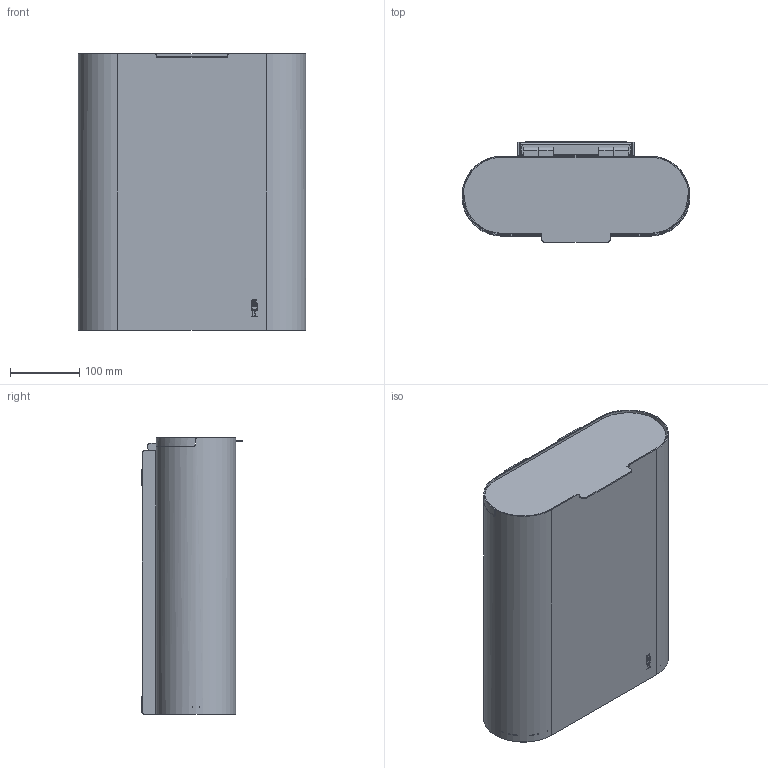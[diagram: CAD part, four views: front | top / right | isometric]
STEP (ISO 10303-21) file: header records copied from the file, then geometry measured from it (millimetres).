
FILE_DESCRIPTION(/* description */ ('Pladesvøb til Björk hygiejnespand'),/* implementation_level */ '2;1');
FILE_NAME(/* name */ 'M:\Standardvarer\3300 Björk hygiejne spand\Tegninger\Inventor 3D\STP\3300 Björk hygiejne spand.stp',/* time_stamp */ '2023-07-04T10:57:02+02:00',/* author */ ('mmn'),/* organization */ (''),/* preprocessor_version */ 'ST-DEVELOPER v16.1',/* originating_system */ 'Autodesk Inventor 2016',/* authorisation */ '');
FILE_SCHEMA (('AUTOMOTIVE_DESIGN { 1 0 10303 214 3 1 1 }'));
Length unit declared in the file: millimetre
Products named in the file (28): 33006-10; 33006-20; Viking logo i streg 24x9; 33006-30; 33006; 33007-20; 33007-10; 33007; 20640; 20650; 33009-50; 33011-30; 33011-20; DIN 125 - A 6,4; 33011-10; 33011-60; 33011; 33009-20; 33009-10; 33009-60; 33009; 33010-del2; 33010-del1; 33010-del3; 33010; 33008-10; 33008; 3300 Björk hygiejne spand
Assembly tree (44 placements, depth 4):
  3300 Björk hygiejne spand
    33006
      33006-10
      33006-20
      Viking logo i streg 24x9
      33006-30
    33007
      33007-20
      33007-10
    20640  x8
    20650  x6
    33011
      33009-50
      33011-10
        33011-30
        33011-20
        DIN 125 - A 6,4
      33011-60
    33009
      33009-50
      33009-10
        33011-30
        33009-20
        DIN 125 - A 6,4
      33009-60
    33010  x2
      33010-del2
      33010-del1
      33010-del3
    33008  x2
      33008-10
Bounding box: 330 x 145.5 x 400 mm (x, y, z)
Volume: 724804 mm3; surface area: 926853.2 mm2
Topology: 48 solids, 48 shells, 954 faces, 2280 edges, 1450 vertices
Faces by surface type: plane 632, cylinder 296, torus 16, bspline 10
Full cylindrical faces by diameter (mm): 1 x4, 4 x8, 4.134 x8, 4.3 x4, 4.5 x4, 5 x6, 5.2 x8, 5.5 x4, 6 x14, 6.1 x2, 6.4 x2, 6.5 x4, 7.7 x8, 9.5 x6, 12 x2
Entity records: 23167 total; most frequent: CARTESIAN_POINT 5961, DIRECTION 3558, ORIENTED_EDGE 3314, EDGE_CURVE 1657, AXIS2_PLACEMENT_3D 1190, LINE 1178, VECTOR 1178, VERTEX_POINT 1079
